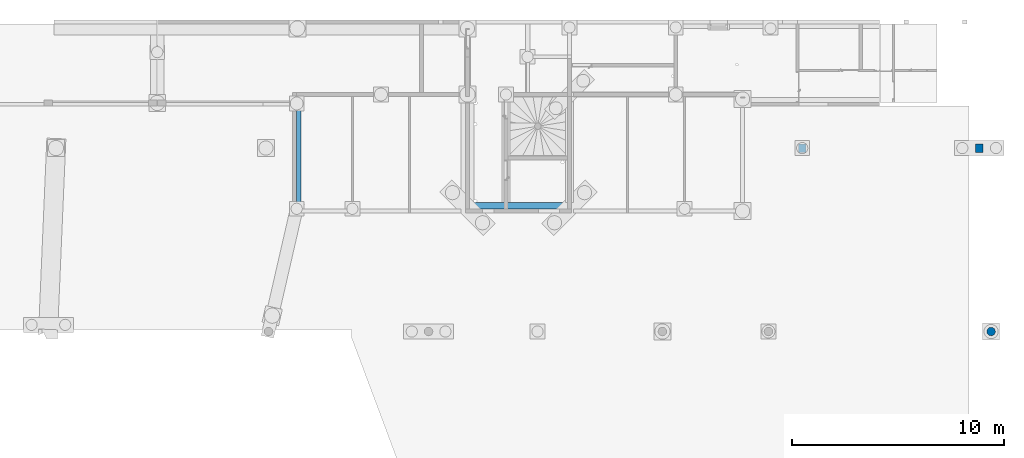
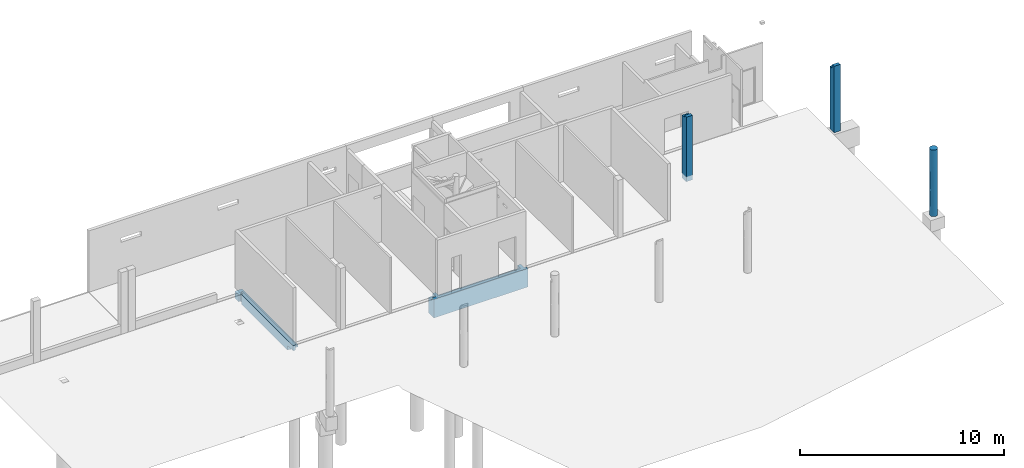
# One storey, part 14 of 29: 3 columns, 2 beams.
"""IFC2X3 building model written with IfcOpenShell, lengths in centimetres."""

from ifc_helpers import new_model, entity, si_unit, converted_unit, derived_unit, direction, frame, origin, place, context, subcontext, project, spatial, faceted_brep, source, transform, mapped, material, type_object, type_shapes, element, save


model = new_model("IFC2X3")

# Units and contexts
model_context = context("Model", 3, precision=0.001, world=origin(), true_north=direction((6.12303176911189e-17, 1.0)))
body_context = subcontext(model_context, "Body", "Model", "MODEL_VIEW")
ifc_project = project(units=[si_unit("LENGTHUNIT", "METRE", prefix="CENTI"), si_unit("AREAUNIT", "SQUARE_METRE"), si_unit("VOLUMEUNIT", "CUBIC_METRE"), converted_unit("PLANEANGLEUNIT", "DEGREE", entity("IfcRatioMeasure", 0.0174532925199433), si_unit("PLANEANGLEUNIT", "RADIAN"), dimensions=[0, 0, 0, 0, 0, 0, 0]), si_unit("MASSUNIT", "GRAM", prefix="KILO"), derived_unit("MASSDENSITYUNIT", [(si_unit("MASSUNIT", "GRAM", prefix="KILO"), 1), (si_unit("LENGTHUNIT", "METRE"), -3)]), si_unit("TIMEUNIT", "SECOND"), si_unit("FREQUENCYUNIT", "HERTZ"), si_unit("THERMODYNAMICTEMPERATUREUNIT", "DEGREE_CELSIUS"), derived_unit("THERMALTRANSMITTANCEUNIT", [(si_unit("MASSUNIT", "GRAM", prefix="KILO"), 1), (si_unit("THERMODYNAMICTEMPERATUREUNIT", "KELVIN"), -1), (si_unit("TIMEUNIT", "SECOND"), -3)]), derived_unit("VOLUMETRICFLOWRATEUNIT", [(si_unit("LENGTHUNIT", "METRE"), 3), (si_unit("TIMEUNIT", "SECOND"), -1)]), si_unit("ELECTRICCURRENTUNIT", "AMPERE"), si_unit("ELECTRICVOLTAGEUNIT", "VOLT"), si_unit("POWERUNIT", "WATT"), si_unit("FORCEUNIT", "NEWTON"), si_unit("ILLUMINANCEUNIT", "LUX"), si_unit("LUMINOUSFLUXUNIT", "LUMEN"), si_unit("LUMINOUSINTENSITYUNIT", "CANDELA"), derived_unit("USERDEFINED", [(si_unit("MASSUNIT", "GRAM", prefix="KILO"), -1), (si_unit("LENGTHUNIT", "METRE"), -2), (si_unit("TIMEUNIT", "SECOND"), 3), (si_unit("LUMINOUSFLUXUNIT", "LUMEN"), 1)]), derived_unit("LINEARVELOCITYUNIT", [(si_unit("LENGTHUNIT", "METRE"), 1), (si_unit("TIMEUNIT", "SECOND"), -1)]), si_unit("PRESSUREUNIT", "PASCAL"), derived_unit("USERDEFINED", [(si_unit("LENGTHUNIT", "METRE"), -2), (si_unit("MASSUNIT", "GRAM", prefix="KILO"), 1), (si_unit("TIMEUNIT", "SECOND"), -2)])], contexts=[model_context])

# Site, building, storey
site_placement = place(None, origin())
site = spatial("IfcSite", under=ifc_project, at=site_placement, Name="Default", CompositionType="ELEMENT")
building_placement = place(site_placement, origin())
building = spatial("IfcBuilding", under=site, at=building_placement, Name="CAGE 03", CompositionType="ELEMENT")
storey_placement = place(building_placement, frame((0.0, 0.0, -26.0)))
storey = spatial("IfcBuildingStorey", under=building, at=storey_placement, Name="+3.74", CompositionType="ELEMENT", Elevation=-26.0000000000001)

# Columns
ifc_material = material(Name="Béton, C25/30")
column_type_1 = type_object("IfcColumnType", Name="Ø40", PredefinedType="COLUMN", material=ifc_material)
shared_shape_1 = source(origin(), body_context, "Body", "Brep", [
    faceted_brep([(6.61458268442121, 5.42181964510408, 398.0), (10.3509486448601, 2.70524993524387, 398.0), (14.6108577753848, 0.919976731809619, 398.0), (19.166787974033, 0.15952722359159, 398.0), (23.7757698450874, 0.464520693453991, 398.0), (28.1919779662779, 1.81876785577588, 398.0), (32.1798339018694, 4.15012391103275, 398.0), (35.5265665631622, 7.33432290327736, 398.0), (38.053561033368, 11.2015902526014, 398.0), (38.8397124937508, 13.3735787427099, 398.0), (39.6258639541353, 15.5455672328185, 398.0), (39.8926955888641, 17.8402204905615, 398.0), (40.1595272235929, 20.134873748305, 398.0), (39.9479358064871, 23.0364053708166, 398.0), (39.3228046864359, 25.8569757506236, 398.0), (37.4370269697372, 30.2089991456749, 398.0), (34.5804408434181, 33.9926243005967, 398.0), (30.9135247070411, 36.997600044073, 398.0), (26.6423110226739, 39.0550617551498, 398.0), (22.0067940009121, 40.0493811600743, 398.0), (17.2674457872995, 39.9246656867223, 398.0), (12.6905812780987, 38.6879017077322, 398.0), (8.53339379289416, 36.4085648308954, 398.0), (5.029502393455, 33.2147188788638, 398.0), (2.37582296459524, 29.2858224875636, 398.0), (0.721505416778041, 24.8426660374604, 398.0), (0.159527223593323, 20.134873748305, 398.0), (0.585941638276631, 16.0269853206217, 398.0), (1.84515501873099, 12.0984708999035, 398.0), (3.88358928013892, 8.51188600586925, 398.0), (39.3228046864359, 25.8569757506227, 298.0), (39.9479358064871, 23.0364053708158, 298.0), (40.1595272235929, 20.134873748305, 298.0), (39.6258639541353, 15.5455672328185, 298.0), (38.053561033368, 11.2015902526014, 298.0), (35.5265665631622, 7.33432290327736, 298.0), (32.1798339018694, 4.15012391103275, 298.0), (28.1919779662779, 1.81876785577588, 298.0), (23.7757698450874, 0.464520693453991, 298.0), (19.166787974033, 0.15952722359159, 298.0), (14.6108577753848, 0.919976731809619, 298.0), (10.3509486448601, 2.70524993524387, 298.0), (6.61458268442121, 5.42181964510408, 298.0), (3.88358928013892, 8.51188600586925, 298.0), (1.84515501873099, 12.0984708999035, 298.0), (0.585941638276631, 16.0269853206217, 298.0), (0.159527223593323, 20.134873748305, 298.0), (0.721505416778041, 24.8426660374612, 298.0), (2.37582296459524, 29.2858224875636, 298.0), (5.02950239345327, 33.2147188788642, 298.0), (8.53339379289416, 36.4085648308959, 298.0), (12.6905812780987, 38.6879017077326, 298.0), (17.2674457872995, 39.9246656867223, 298.0), (22.0067940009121, 40.0493811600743, 298.0), (26.6423110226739, 39.0550617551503, 298.0), (30.9135247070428, 36.9976000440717, 298.0), (34.5804408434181, 33.9926243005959, 298.0), (37.4370269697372, 30.2089991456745, 298.0), (39.8407350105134, 16.5781814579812, 353.0), (38.8945212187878, 13.1348737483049, 353.0), (40.1595272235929, 20.134873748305, 353.0), (40.1595272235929, 20.134873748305, 373.0), (39.8407350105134, 16.5781814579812, 373.0), (38.8945212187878, 13.1348737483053, 373.0), (39.9478538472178, 23.0369642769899, 353.0), (39.3221388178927, 25.8615059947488, 353.0), (34.500112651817, 34.0757348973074, 353.0), (30.7668689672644, 37.0902357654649, 353.0), (37.4078727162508, 30.2588343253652, 353.0), (39.9478538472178, 23.0369642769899, 373.0), (39.3221388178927, 25.8615059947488, 373.0), (34.500112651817, 34.0757348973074, 373.0), (30.7668689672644, 37.0902357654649, 373.0), (37.4078727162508, 30.2588343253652, 373.0), (26.4230026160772, 39.1287905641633, 373.0), (26.4230026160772, 39.1287905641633, 353.0), (21.7185353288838, 40.0740185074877, 353.0), (16.9242617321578, 39.871465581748, 353.0), (12.3161977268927, 38.5327590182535, 353.0), (8.15952722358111, 36.1348737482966, 353.0), (8.15952722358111, 36.1348737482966, 373.0), (21.7185353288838, 40.0740185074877, 373.0), (16.9242617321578, 39.871465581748, 373.0), (12.3161977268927, 38.5327590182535, 373.0), (8.15952722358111, 13.1348737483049, 353.0), (8.15952722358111, 13.1348737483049, 373.0)], [[[0, 1, 2, 3, 4, 5, 6, 7, 8, 9, 10, 11, 12, 13, 14, 15, 16, 17, 18, 19, 20, 21, 22, 23, 24, 25, 26, 27, 28, 29]], [[30, 31, 32, 33, 34, 35, 36, 37, 38, 39, 40, 41, 42, 43, 44, 45, 46, 47, 48, 49, 50, 51, 52, 53, 54, 55, 56, 57]], [[27, 45, 44, 28]], [[26, 46, 45, 27]], [[28, 44, 43, 29]], [[40, 39, 3, 2]], [[0, 42, 41, 1]], [[1, 41, 40, 2]], [[43, 42, 0, 29]], [[3, 39, 38, 4]], [[38, 37, 5, 4]], [[35, 7, 6, 36]], [[36, 6, 5, 37]], [[7, 35, 34, 8]], [[33, 32, 58]], [[33, 58, 59]], [[58, 32, 60]], [[61, 11, 62]], [[33, 59, 34]], [[34, 59, 63, 8]], [[63, 62, 10]], [[63, 10, 9, 8]], [[62, 11, 10]], [[11, 61, 12]], [[31, 30, 64]], [[32, 31, 60]], [[13, 12, 61]], [[64, 60, 31]], [[65, 64, 30]], [[30, 57, 65]], [[66, 56, 55]], [[67, 55, 54]], [[57, 68, 65]], [[57, 56, 68]], [[68, 56, 66]], [[55, 67, 66]], [[13, 61, 69]], [[14, 69, 70]], [[14, 13, 69]], [[70, 15, 14]], [[71, 72, 17]], [[73, 71, 16]], [[15, 73, 16]], [[16, 71, 17]], [[72, 18, 17]], [[18, 72, 74]], [[73, 15, 70]], [[67, 54, 75]], [[76, 53, 52]], [[77, 52, 51]], [[53, 76, 75]], [[76, 52, 77]], [[51, 78, 77]], [[53, 75, 54]], [[48, 24, 23, 49]], [[47, 25, 24, 48]], [[78, 50, 79]], [[50, 78, 51]], [[23, 80, 79, 49]], [[49, 79, 50]], [[47, 46, 26, 25]], [[81, 82, 20]], [[74, 81, 19]], [[81, 20, 19]], [[20, 82, 21]], [[82, 83, 21]], [[74, 19, 18]], [[83, 80, 22]], [[22, 80, 23]], [[83, 22, 21]], [[67, 75, 76, 77, 78, 79, 84, 59, 58, 60, 64, 65, 68, 66]], [[61, 62, 63, 85, 80, 83, 82, 81, 74, 72, 71, 73, 70, 69]], [[85, 84, 79, 80]], [[85, 63, 59, 84]]]),
    faceted_brep([(22.570260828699, 39.9890512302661, 0.0), (27.2516249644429, 38.8351986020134, 0.0), (31.5208221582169, 36.5945510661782, 0.0), (35.1297421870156, 33.3973269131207, 0.0), (37.868647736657, 29.4293371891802, 0.0), (39.5783635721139, 24.921187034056, 0.0), (40.1595272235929, 20.134873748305, 0.0), (39.5783635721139, 15.3485604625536, 0.0), (37.868647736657, 10.8404103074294, 0.0), (35.1297421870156, 6.87242058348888, 0.0), (31.5208221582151, 3.67519643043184, 0.0), (27.2516249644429, 1.43454889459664, 0.0), (22.570260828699, 0.280696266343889, 0.0), (17.7487936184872, 0.280696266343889, 0.0), (13.0674294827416, 1.43454889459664, 0.0), (8.79823228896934, 3.67519643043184, 0.0), (5.18931226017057, 6.87242058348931, 0.0), (2.45040671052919, 10.8404103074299, 0.0), (0.740690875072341, 15.348560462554, 0.0), (0.159527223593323, 20.134873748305, 0.0), (0.740690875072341, 24.921187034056, 0.0), (2.45040671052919, 29.4293371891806, 0.0), (5.18931226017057, 33.3973269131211, 0.0), (8.79823228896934, 36.5945510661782, 0.0), (13.0674294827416, 38.8351986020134, 0.0), (17.7487936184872, 39.9890512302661, 0.0), (27.2516249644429, 1.43454889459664, 298.0), (31.5208221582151, 3.67519643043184, 298.0), (35.1297421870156, 6.87242058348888, 298.0), (37.868647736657, 10.8404103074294, 298.0), (39.5783635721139, 15.3485604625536, 298.0), (40.1595272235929, 20.134873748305, 298.0), (39.5783635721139, 24.921187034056, 298.0), (37.868647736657, 29.4293371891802, 298.0), (35.1297421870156, 33.3973269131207, 298.0), (31.5208221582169, 36.5945510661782, 298.0), (27.2516249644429, 38.8351986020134, 298.0), (22.570260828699, 39.9890512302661, 298.0), (17.7487936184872, 39.9890512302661, 298.0), (13.0674294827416, 38.8351986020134, 298.0), (8.79823228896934, 36.5945510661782, 298.0), (5.18931226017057, 33.3973269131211, 298.0), (2.45040671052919, 29.4293371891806, 298.0), (0.740690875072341, 24.921187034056, 298.0), (0.159527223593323, 20.134873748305, 298.0), (0.740690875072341, 15.348560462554, 298.0), (2.45040671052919, 10.8404103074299, 298.0), (5.18931226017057, 6.87242058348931, 298.0), (8.79823228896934, 3.67519643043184, 298.0), (13.0674294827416, 1.43454889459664, 298.0), (17.7487936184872, 0.280696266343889, 298.0), (22.570260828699, 0.280696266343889, 298.0), (29.4539906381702, 37.8439942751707, 234.492004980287), (15.3732139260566, 39.5537100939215, 237.069426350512), (39.8586298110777, 23.5910793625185, 60.2992552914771), (38.8598520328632, 27.2269716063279, 92.1783624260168), (29.4539906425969, 37.8439942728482, 64.7303650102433), (33.4219803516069, 35.1050887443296, 86.909719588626), (0.15952722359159, 20.134873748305, 49.3811051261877), (36.6192045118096, 31.4961687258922, 234.492005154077), (38.8598520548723, 27.226971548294, 216.184382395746), (39.789828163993, 23.962573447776, 148.140478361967), (38.5835538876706, 27.9165985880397, 151.462832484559), (0.15952722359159, 20.1348737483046, 100.479587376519), (0.539464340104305, 24.0147104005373, 149.859525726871), (0.457816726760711, 23.5761821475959, 74.9297628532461), (1.73651405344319, 27.918997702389, 152.588649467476), (1.45920236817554, 27.2269714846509, 86.9097194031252), (24.9458404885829, 39.553710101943, 86.9097193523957), (20.1595272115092, 40.1348737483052, 64.7303650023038), (3.69984990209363, 31.4961686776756, 237.069426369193), (6.89707405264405, 35.105088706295, 233.269635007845), (40.1595272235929, 20.134873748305, 248.619841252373), (10.8650637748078, 37.8439942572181, 86.9097194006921), (33.4219803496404, 35.1050887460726, 216.184382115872), (36.6192044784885, 31.4961687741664, 161.451403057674), (36.6192045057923, 31.4961687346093, 64.7303651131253), (0.15952722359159, 20.134873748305, 197.520510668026), (0.15952722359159, 20.134873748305, 199.23979368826), (29.4539906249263, 37.8439942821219, 149.0), (0.441806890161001, 23.4832322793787, 238.83127802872), (1.45920236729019, 27.2269714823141, 211.090280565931), (15.3732139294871, 39.553710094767, 60.9305736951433), (15.3732139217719, 39.5537100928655, 149.0), (11.3350094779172, 38.0827952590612, 149.0), (6.89707405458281, 35.1050887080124, 64.7303649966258), (20.1595272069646, 40.1348737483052, 233.269635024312), (3.6998499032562, 31.4961686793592, 60.930573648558), (3.69984990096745, 31.4961686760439, 149.0), (21.0345162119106, 40.1157244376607, 146.717454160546), (25.4559542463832, 39.4208235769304, 149.0), (24.9458404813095, 39.5537101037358, 211.09028058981), (40.1595272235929, 20.134873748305, 98.7603174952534), (10.865063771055, 37.8439942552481, 211.09028055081), (33.7312290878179, 34.825309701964, 151.547050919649), (7.56471106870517, 35.670980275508, 146.717453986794), (39.8666164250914, 23.5452454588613, 223.070239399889), (40.1595272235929, 20.134873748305, 197.520634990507), (40.1595272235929, 20.1348737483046, 100.479367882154), (40.1595272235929, 20.134873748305, 49.3801580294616), (0.15952722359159, 20.134873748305, 98.7602553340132), (0.159527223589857, 20.1348737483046, 248.619032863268), (40.1595272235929, 20.1348737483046, 199.239683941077), (36.6192045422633, 8.77357881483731, 237.069426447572), (33.4219803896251, 5.16465878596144, 233.269635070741), (39.8772475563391, 16.7865152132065, 238.831278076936), (38.8598520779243, 13.0427760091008, 211.090280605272), (38.5825403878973, 12.3507497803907, 152.588649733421), (38.8598520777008, 13.04277600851, 86.9097193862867), (39.7795901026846, 16.255037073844, 149.859525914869), (6.89707406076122, 5.16465878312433, 86.9097194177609), (10.8650637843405, 2.42575323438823, 64.7303649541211), (24.9458405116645, 0.716037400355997, 149.0), (29.4539906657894, 2.42575323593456, 86.909719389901), (28.9840449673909, 2.18695223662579, 149.0), (6.89707406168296, 5.16465878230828, 216.184381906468), (32.7543433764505, 4.59876721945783, 146.717453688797), (33.4219803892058, 5.16465878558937, 64.7303649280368), (39.8612377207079, 16.6935653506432, 74.9297629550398), (20.1595272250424, 0.134873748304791, 64.7303649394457), (15.373213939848, 0.716037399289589, 86.9097193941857), (1.45920237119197, 13.0427760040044, 92.1783625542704), (10.8650637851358, 2.42575323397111, 234.492004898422), (24.9458405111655, 0.716037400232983, 237.069426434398), (3.6998499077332, 8.77357881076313, 234.492004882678), (3.69984990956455, 8.77357880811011, 161.451402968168), (3.69984990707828, 8.77357881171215, 64.7303649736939), (1.45920237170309, 13.042776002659, 216.184381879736), (0.52922625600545, 16.3071741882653, 148.140474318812), (1.73550049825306, 12.3531490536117, 151.462831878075), (10.8650637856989, 2.42575323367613, 149.0), (0.460424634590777, 16.6786681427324, 60.2992559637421), (24.9458405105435, 0.716037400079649, 60.9305735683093), (19.2845382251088, 0.154023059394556, 146.717453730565), (36.6192045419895, 8.77357881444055, 60.9305735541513), (36.6192045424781, 8.77357881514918, 149.0), (20.1595272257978, 0.134873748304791, 233.269635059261), (14.8631001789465, 0.848923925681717, 149.0), (15.3732139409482, 0.716037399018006, 211.090280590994), (29.453990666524, 2.4257532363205, 211.090280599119), (6.58782530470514, 5.44443784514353, 151.54705066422), (0.452438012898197, 16.7245020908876, 223.070237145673)], [[[0, 1, 2, 3, 4, 5, 6, 7, 8, 9, 10, 11, 12, 13, 14, 15, 16, 17, 18, 19, 20, 21, 22, 23, 24, 25]], [[26, 27, 28, 29, 30, 31, 32, 33, 34, 35, 36, 37, 38, 39, 40, 41, 42, 43, 44, 45, 46, 47, 48, 49, 50, 51]], [[36, 35, 52]], [[39, 38, 53]], [[54, 6, 5]], [[55, 5, 4]], [[2, 56, 57]], [[20, 19, 58]], [[34, 33, 59]], [[60, 61, 62]], [[2, 1, 56]], [[63, 64, 65]], [[66, 67, 64]], [[68, 0, 69]], [[2, 57, 3]], [[68, 1, 0]], [[70, 41, 71]], [[32, 31, 72]], [[73, 24, 23]], [[74, 35, 34]], [[33, 32, 60]], [[59, 33, 60]], [[74, 59, 75]], [[75, 76, 57]], [[64, 63, 77, 78]], [[74, 52, 35]], [[42, 41, 70]], [[57, 56, 79]], [[79, 52, 74]], [[80, 43, 81]], [[69, 25, 82]], [[83, 73, 84]], [[40, 71, 41]], [[73, 23, 85]], [[67, 65, 64]], [[37, 86, 38]], [[87, 88, 85]], [[88, 70, 71]], [[89, 68, 69]], [[22, 87, 85]], [[79, 68, 90]], [[85, 23, 22]], [[81, 43, 42]], [[86, 37, 91]], [[53, 38, 86]], [[61, 92, 54]], [[57, 76, 3]], [[54, 5, 55]], [[69, 82, 83]], [[83, 53, 86]], [[76, 75, 55]], [[93, 40, 39]], [[71, 40, 93]], [[94, 79, 74]], [[21, 20, 67]], [[44, 43, 80]], [[69, 0, 25]], [[91, 37, 36]], [[95, 73, 85]], [[3, 76, 4]], [[94, 74, 75]], [[52, 79, 91]], [[79, 56, 68]], [[32, 72, 96]], [[61, 97, 98, 92]], [[1, 68, 56]], [[55, 4, 76]], [[25, 24, 82]], [[89, 69, 83]], [[93, 53, 83]], [[90, 89, 91]], [[91, 89, 86]], [[83, 86, 89]], [[22, 21, 87]], [[95, 85, 88]], [[81, 70, 88]], [[88, 87, 67]], [[84, 95, 93]], [[93, 95, 71]], [[88, 71, 95]], [[91, 36, 52]], [[75, 59, 60]], [[74, 34, 59]], [[24, 73, 82]], [[83, 82, 73]], [[93, 39, 53]], [[21, 67, 87]], [[81, 42, 70]], [[62, 61, 55]], [[61, 60, 96]], [[55, 75, 62]], [[60, 62, 75]], [[61, 54, 55]], [[54, 92, 99, 6]], [[89, 90, 68]], [[91, 79, 90]], [[95, 84, 73]], [[93, 83, 84]], [[65, 58, 100, 63]], [[20, 58, 65]], [[20, 65, 67]], [[80, 64, 78]], [[64, 81, 66]], [[64, 80, 81]], [[80, 78, 101, 44]], [[75, 57, 94]], [[79, 94, 57]], [[96, 72, 102, 97]], [[61, 96, 97]], [[32, 96, 60]], [[81, 88, 66]], [[67, 66, 88]], [[103, 28, 104]], [[105, 30, 106]], [[107, 108, 109]], [[16, 15, 110]], [[15, 111, 110]], [[112, 113, 114]], [[111, 15, 14]], [[7, 6, 99]], [[47, 115, 48]], [[116, 113, 117]], [[98, 109, 118]], [[13, 119, 120]], [[121, 18, 17]], [[120, 14, 13]], [[49, 48, 122]], [[45, 44, 101]], [[26, 51, 123]], [[115, 124, 125]], [[125, 126, 110]], [[127, 128, 129]], [[124, 47, 46]], [[127, 124, 46]], [[109, 98, 97, 102]], [[122, 48, 115]], [[113, 11, 10]], [[110, 111, 130]], [[130, 122, 115]], [[131, 19, 18]], [[119, 12, 132]], [[117, 10, 9]], [[133, 120, 119]], [[113, 10, 117]], [[108, 118, 109]], [[126, 125, 121]], [[125, 124, 127]], [[134, 135, 117]], [[135, 103, 104]], [[50, 136, 51]], [[9, 134, 117]], [[119, 13, 12]], [[130, 120, 137]], [[106, 30, 29]], [[136, 50, 138]], [[123, 51, 136]], [[16, 126, 17]], [[46, 45, 127]], [[128, 100, 131]], [[119, 132, 112]], [[112, 123, 136]], [[131, 18, 121]], [[139, 27, 26]], [[104, 27, 139]], [[31, 30, 105]], [[8, 7, 108]], [[110, 126, 16]], [[140, 130, 115]], [[138, 50, 49]], [[27, 104, 28]], [[29, 28, 103]], [[140, 115, 125]], [[122, 130, 138]], [[130, 111, 120]], [[45, 101, 141]], [[128, 77, 63, 100]], [[14, 120, 111]], [[121, 17, 126]], [[12, 11, 132]], [[133, 119, 112]], [[139, 123, 112]], [[112, 132, 113]], [[137, 133, 138]], [[138, 133, 136]], [[112, 136, 133]], [[9, 8, 134]], [[116, 117, 135]], [[106, 103, 135]], [[135, 134, 108]], [[114, 116, 139]], [[139, 116, 104]], [[135, 104, 116]], [[138, 49, 122]], [[115, 47, 124]], [[11, 113, 132]], [[139, 26, 123]], [[8, 108, 134]], [[106, 29, 103]], [[129, 128, 121]], [[128, 127, 141]], [[121, 125, 129]], [[127, 129, 125]], [[128, 131, 121]], [[131, 100, 58, 19]], [[133, 137, 120]], [[138, 130, 137]], [[116, 114, 113]], [[139, 112, 114]], [[118, 99, 92, 98]], [[7, 99, 118]], [[7, 118, 108]], [[105, 109, 102]], [[109, 106, 107]], [[109, 105, 106]], [[105, 102, 72, 31]], [[125, 110, 140]], [[130, 140, 110]], [[141, 101, 78, 77]], [[128, 141, 77]], [[45, 141, 127]], [[106, 135, 107]], [[108, 107, 135]]]),
])
type_shapes(column_type_1, [shared_shape_1])
column_1_placement = place(storey_placement, frame((9294.20629291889, 3801.52579232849, -32.0)))
element("IfcColumn", 1, at=column_1_placement, inside=storey, type_object=column_type_1, material=ifc_material, Name="BBGO-Poteau circ:Ø40", ObjectType="Ø40", context=body_context, shape_type="MappedRepresentation", body=[
    mapped(shared_shape_1, transform((0.0, 0.0, 0.0), scale=1.0)),
])
column_type_2 = type_object("IfcColumnType", Name="35x40", PredefinedType="COLUMN", material=ifc_material)
shared_shape_2 = source(origin(), body_context, "Body", "Brep", [
    faceted_brep([(0.0, 0.0, 298.0), (35.0, 0.0, 298.0), (35.0, 0.0, 386.0), (0.0, 0.0, 386.0), (35.0, 40.0, 298.0), (35.0, 40.0, 375.0), (35.0, 18.0, 375.0), (35.0, 18.0, 386.0), (0.0, 40.0, 298.0), (0.0, 40.0, 375.0), (0.0, 18.0, 386.0), (0.0, 18.0, 375.0)], [[[0, 1, 2, 3]], [[1, 4, 5, 6, 7, 2]], [[4, 8, 9, 5]], [[8, 0, 3, 10, 11, 9]], [[1, 0, 8, 4]], [[11, 6, 5, 9]], [[6, 11, 10, 7]], [[3, 2, 7, 10]]]),
    faceted_brep([(0.0, 40.0, 0.0), (35.0, 40.0, 0.0), (35.0, 0.0, 0.0), (0.0, 0.0, 0.0), (0.0, 40.0, 298.0), (35.0, 40.0, 298.0), (35.0, 0.0, 298.0), (0.0, 0.0, 298.0)], [[[0, 1, 2, 3]], [[4, 5, 1, 0]], [[5, 6, 2, 1]], [[6, 7, 3, 2]], [[7, 4, 0, 3]], [[4, 7, 6, 5]]]),
])
type_shapes(column_type_2, [shared_shape_2])
column_2_placement = place(storey_placement, frame((8404.36582014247, 4668.6606660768, -32.0)))
element("IfcColumn", 2, at=column_2_placement, inside=storey, type_object=column_type_2, material=ifc_material, Name="BBGO-Poteau rect:35x40", ObjectType="35x40", context=body_context, shape_type="MappedRepresentation", body=[
    mapped(shared_shape_2, transform((0.0, 0.0, 0.0), scale=1.0)),
])
column_type_3 = type_object("IfcColumnType", Name="35x40", PredefinedType="COLUMN", material=ifc_material)
shared_shape_3 = source(origin(), body_context, "Body", "Brep", [
    faceted_brep([(0.0, 0.0, 398.0), (35.0, 0.0, 398.0), (35.0, 18.0, 398.0), (0.0, 18.0, 398.0), (0.0, 0.0, 298.0), (35.0, 0.0, 298.0), (35.0, 40.0, 298.0), (35.0, 40.0, 375.0), (35.0, 18.0, 375.0), (0.0, 40.0, 298.0), (0.0, 40.0, 375.0), (0.0, 18.0, 375.0)], [[[0, 1, 2, 3]], [[1, 0, 4, 5]], [[1, 5, 6, 7, 8, 2]], [[6, 9, 10, 7]], [[4, 0, 3, 11, 10, 9]], [[5, 4, 9, 6]], [[11, 8, 7, 10]], [[8, 11, 3, 2]]]),
    faceted_brep([(0.0, 40.0, 0.0), (35.0, 40.0, 0.0), (35.0, 0.0, 0.0), (0.0, 0.0, 0.0), (0.0, 40.0, 298.0), (35.0, 40.0, 298.0), (35.0, 0.0, 298.0), (0.0, 0.0, 298.0)], [[[0, 1, 2, 3]], [[4, 5, 1, 0]], [[5, 6, 2, 1]], [[6, 7, 3, 2]], [[7, 4, 0, 3]], [[4, 7, 6, 5]]]),
])
type_shapes(column_type_3, [shared_shape_3])
column_3_placement = place(storey_placement, frame((9240.36489605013, 4668.66066607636, -32.0)))
element("IfcColumn", 3, at=column_3_placement, inside=storey, type_object=column_type_3, material=ifc_material, Name="BBGO-Poteau rect:35x40", ObjectType="35x40", context=body_context, shape_type="MappedRepresentation", body=[
    mapped(shared_shape_3, transform((0.0, 0.0, 0.0), scale=1.0)),
])

# Beams
beam_type_1 = type_object("IfcBeamType", Name="BBGO-Poutre rect:40x60ht", PredefinedType="BEAM")
beam_1_placement = place(storey_placement, frame((6013.36582014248, 4381.6606660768, -60.0), z_axis=(0.0, 0.0, 1.0), x_axis=(0.0, 1.0, 0.0)))
element("IfcBeam", 4, at=beam_1_placement, inside=storey, type_object=beam_type_1, material=ifc_material, Name="BBGO-Poutre rect:40x60ht", ObjectType="BBGO-Poutre rect:40x60ht", context=body_context, shape_type="Brep", body=[
    faceted_brep([(569.0, -40.0, 0.0), (569.0, 0.0, 0.0), (569.0, 0.0, 40.0), (569.0, -40.0, 40.0), (0.0, -15.413793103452, 60.0), (0.0, 0.0, 60.0), (0.0, 0.0, 28.0), (0.0, -15.413793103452, 28.0), (18.0, -40.0, 40.0), (18.0, -40.0, 28.0), (46.1924368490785, -40.0, 28.0), (46.1924368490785, -40.0, 0.0), (55.3648506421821, 0.0, 0.0), (505.0, 0.0, 0.0), (505.0, -9.0, 0.0), (530.0, -9.0, 0.0), (530.0, 0.0, 0.0), (530.0, 0.0, 40.0), (17.9769829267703, -18.0, 60.0), (523.0, -18.0, 60.0), (523.0, -9.0, 60.0), (505.0, -9.0, 60.0), (505.0, 0.0, 60.0), (17.9769829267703, -19.5361012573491, 60.0), (523.0, -18.0, 40.0), (17.9769829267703, -18.0, 40.0), (17.9769829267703, -19.5361012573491, 40.0), (18.0, -19.5413793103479, 40.0), (530.0, -9.0, 40.0), (523.0, -9.0, 40.0), (18.0, -19.5413793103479, 28.0), (55.3648506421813, 0.0, 28.0)], [[[0, 1, 2, 3]], [[4, 5, 6, 7]], [[0, 3, 8, 9, 10, 11]], [[1, 0, 11, 12, 13, 14, 15, 16]], [[2, 1, 16, 17]], [[18, 19, 20, 21, 22, 5, 4, 23]], [[24, 25, 26, 27, 8, 3, 2, 17, 28, 29]], [[25, 24, 19, 18]], [[8, 27, 30, 9]], [[14, 21, 20, 29, 28, 15]], [[21, 14, 13, 22]], [[19, 24, 29, 20]], [[15, 28, 17, 16]], [[22, 13, 12, 31, 6, 5]], [[25, 18, 23, 26]], [[10, 31, 12, 11]], [[31, 10, 9, 30, 7, 6]], [[23, 4, 7, 30, 27, 26]]]),
])
beam_type_2 = type_object("IfcBeamType", Name="BBGO-Poutre rect:50x110ht", PredefinedType="BEAM")
beam_2_placement = place(storey_placement, frame((6810.36582014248, 4381.6606660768, -115.0)))
element("IfcBeam", 5, at=beam_2_placement, inside=storey, type_object=beam_type_2, material=ifc_material, Name="BBGO-Poutre rect:50x110ht", ObjectType="BBGO-Poutre rect:50x110ht", context=body_context, shape_type="Brep", body=[
    faceted_brep([(532.0, 0.0, 110.0), (521.0, 0.0, 110.0), (21.0, 0.0, 110.0), (0.0, 0.0, 110.0), (0.0, 0.0, 55.0), (0.0, 0.0, 0.0), (532.0, 0.0, 0.0), (532.0, 0.0, 55.0), (0.0, 50.0, 0.0), (532.0, 50.0, 0.0), (0.0, 50.0, 30.0), (0.0, 50.0, 95.0), (21.0, 50.0, 95.0), (21.0, 50.0, 110.0), (39.0, 50.0, 110.0), (39.0, 50.0, 90.0), (60.0, 50.0, 90.0), (192.0, 50.0, 90.0), (232.0, 50.0, 90.0), (492.0, 50.0, 90.0), (503.0, 50.0, 90.0), (503.0, 50.0, 110.0), (521.0, 50.0, 110.0), (521.0, 50.0, 95.0), (532.0, 50.0, 95.0), (532.0, 50.0, 30.0), (532.0, 17.9769829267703, 110.0), (521.0, 17.9769829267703, 110.0), (521.0, 18.0, 110.0), (503.0, 18.0, 110.0), (503.0, 17.9769829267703, 110.0), (39.0, 17.9769829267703, 110.0), (39.0, 18.0, 110.0), (21.0, 18.0, 110.0), (21.0, 17.9769829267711, 110.0), (0.0, 17.9769829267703, 110.0), (521.0, 17.9769829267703, 95.0), (532.0, 17.9769829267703, 95.0), (532.0, 18.0, 95.0), (39.0, 17.9769829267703, 90.0), (503.0, 17.9769829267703, 90.0), (0.0, 17.9769829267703, 95.0), (21.0, 17.9769829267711, 95.0), (0.0, 18.0, 95.0)], [[[0, 1, 2, 3, 4, 5, 6, 7]], [[6, 5, 8, 9]], [[9, 8, 10, 11, 12, 13, 14, 15, 16, 17, 18, 19, 20, 21, 22, 23, 24, 25]], [[3, 2, 1, 0, 26, 27, 28, 22, 21, 29, 30, 31, 32, 14, 13, 33, 34, 35]], [[23, 36, 37, 38, 24]], [[37, 36, 27, 26]], [[36, 23, 22, 28, 27]], [[0, 7, 6, 9, 25, 24, 38, 37, 26]], [[39, 40, 20, 19, 18, 17, 16, 15]], [[40, 39, 31, 30]], [[40, 30, 29, 21, 20]], [[31, 39, 15, 14, 32]], [[41, 42, 12, 11, 43]], [[42, 41, 35, 34]], [[12, 42, 34, 33, 13]], [[8, 5, 4, 3, 35, 41, 43, 11, 10]]]),
])

save(model, "model.ifc")
